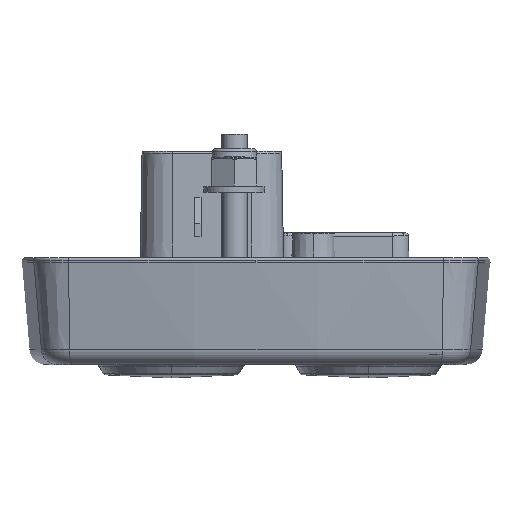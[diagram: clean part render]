
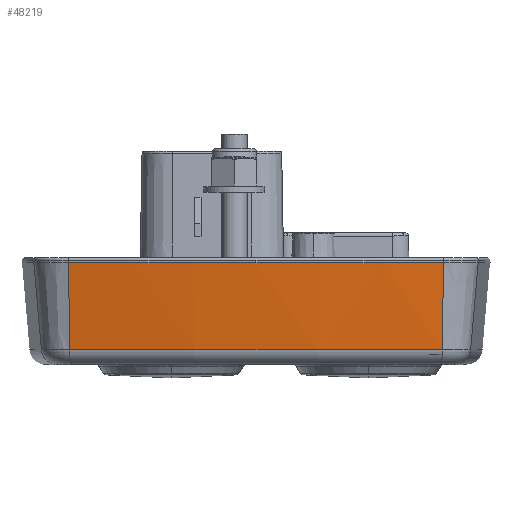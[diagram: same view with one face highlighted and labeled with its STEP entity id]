
A CAD part, left-side view. The second image highlights one B-rep face of the part: STEP entity #48219.
In plain terms, the highlighted conical face has half-angle 5 degrees and reference radius 220.645 mm.
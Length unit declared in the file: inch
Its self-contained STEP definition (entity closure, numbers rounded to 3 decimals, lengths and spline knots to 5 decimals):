
#2472 = CONICAL_SURFACE ( 'NONE', #46995, 8.68682, 0.087 ) ;
#7214 = EDGE_CURVE ( 'NONE', #111307, #71917, #54568, .T. ) ;
#10225 = VECTOR ( 'NONE', #16003, 39.37008 ) ;
#10726 = CARTESIAN_POINT ( 'NONE',  ( 6.42669, 0., -0.21127 ) ) ;
#16003 = DIRECTION ( 'NONE',  ( -0.086, 0.012, 0.996 ) ) ;
#16464 = DIRECTION ( 'NONE',  ( 0., 0., -1. ) ) ;
#16756 = EDGE_CURVE ( 'NONE', #55719, #102919, #93516, .T. ) ;
#21211 = DIRECTION ( 'NONE',  ( -1., 0., 0. ) ) ;
#28358 = AXIS2_PLACEMENT_3D ( 'NONE', #117474, #54898, #127932 ) ;
#28738 = AXIS2_PLACEMENT_3D ( 'NONE', #10726, #83744, #21211 ) ;
#35661 = CARTESIAN_POINT ( 'NONE',  ( 6.42669, 0., 0.32737 ) ) ;
#40108 = CARTESIAN_POINT ( 'NONE',  ( -2.18268, -1.15748, 0.32737 ) ) ;
#46995 = AXIS2_PLACEMENT_3D ( 'NONE', #35661, #119232, #56635 ) ;
#48219 = ADVANCED_FACE ( 'NONE', ( #61188 ), #2472, .T. ) ;
#52463 = CARTESIAN_POINT ( 'NONE',  ( -2.18268, 1.15748, 0.32737 ) ) ;
#52587 = CIRCLE ( 'NONE', #28358, 8.68682 ) ;
#53925 = EDGE_CURVE ( 'NONE', #54943, #102919, #52587, .T. ) ;
#54568 = LINE ( 'NONE', #40108, #57832 ) ;
#54898 = DIRECTION ( 'NONE',  ( 0., 0., -1. ) ) ;
#54943 = VERTEX_POINT ( 'NONE', #94805 ) ;
#55719 = VERTEX_POINT ( 'NONE', #76188 ) ;
#55983 = ORIENTED_EDGE ( 'NONE', *, *, #7214, .T. ) ;
#56635 = DIRECTION ( 'NONE',  ( 1., 0., 0. ) ) ;
#57832 = VECTOR ( 'NONE', #60661, 39.37008 ) ;
#60661 = DIRECTION ( 'NONE',  ( -0.086, -0.012, 0.996 ) ) ;
#61188 = FACE_OUTER_BOUND ( 'NONE', #135359, .T. ) ;
#66371 = CIRCLE ( 'NONE', #132145, 8.68682 ) ;
#68019 = CARTESIAN_POINT ( 'NONE',  ( -2.18268, 1.15748, 0.32737 ) ) ;
#71917 = VERTEX_POINT ( 'NONE', #72162 ) ;
#72162 = CARTESIAN_POINT ( 'NONE',  ( -2.18268, -1.15748, 0.32737 ) ) ;
#76188 = CARTESIAN_POINT ( 'NONE',  ( -2.13597, 1.1512, -0.21127 ) ) ;
#76226 = EDGE_CURVE ( 'NONE', #71917, #54943, #66371, .T. ) ;
#79037 = CARTESIAN_POINT ( 'NONE',  ( 6.42669, 0., 0.32737 ) ) ;
#83744 = DIRECTION ( 'NONE',  ( 0., 0., 1. ) ) ;
#86298 = CARTESIAN_POINT ( 'NONE',  ( -2.13597, -1.1512, -0.21127 ) ) ;
#89519 = DIRECTION ( 'NONE',  ( 1., 0., 0. ) ) ;
#90788 = CIRCLE ( 'NONE', #28738, 8.6397 ) ;
#93516 = LINE ( 'NONE', #68019, #10225 ) ;
#94805 = CARTESIAN_POINT ( 'NONE',  ( -2.26014, 0., 0.32737 ) ) ;
#100921 = ORIENTED_EDGE ( 'NONE', *, *, #76226, .T. ) ;
#101903 = EDGE_CURVE ( 'NONE', #55719, #111307, #90788, .T. ) ;
#102919 = VERTEX_POINT ( 'NONE', #52463 ) ;
#109356 = ORIENTED_EDGE ( 'NONE', *, *, #53925, .T. ) ;
#111307 = VERTEX_POINT ( 'NONE', #86298 ) ;
#114891 = ORIENTED_EDGE ( 'NONE', *, *, #16756, .F. ) ;
#117474 = CARTESIAN_POINT ( 'NONE',  ( 6.42669, 0., 0.32737 ) ) ;
#119232 = DIRECTION ( 'NONE',  ( 0., 0., 1. ) ) ;
#124342 = ORIENTED_EDGE ( 'NONE', *, *, #101903, .T. ) ;
#127932 = DIRECTION ( 'NONE',  ( 1., 0., 0. ) ) ;
#132145 = AXIS2_PLACEMENT_3D ( 'NONE', #79037, #16464, #89519 ) ;
#135359 = EDGE_LOOP ( 'NONE', ( #114891, #124342, #55983, #100921, #109356 ) ) ;
